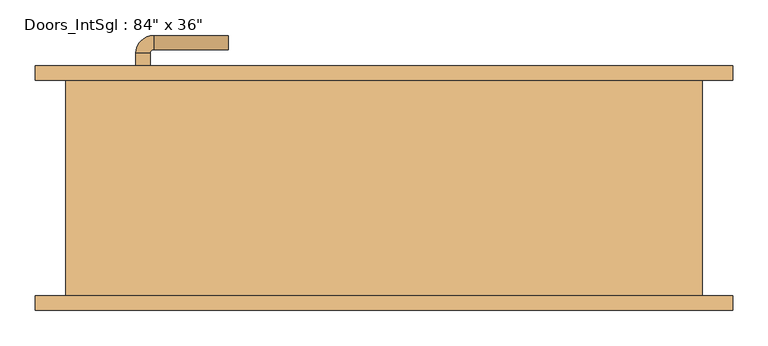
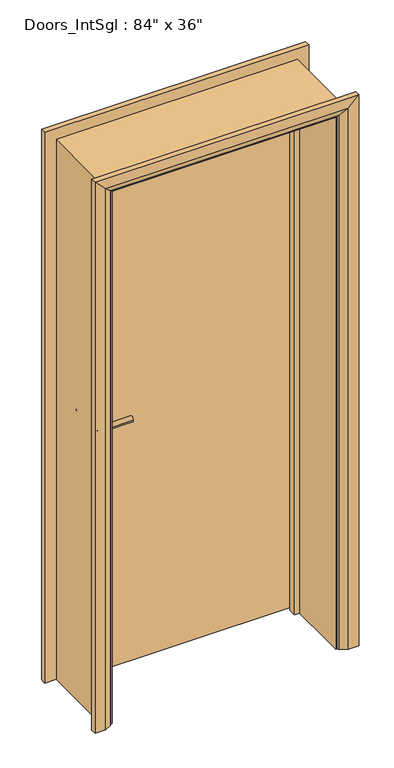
"""IFC4 building model written with IfcOpenShell, lengths in millimetres: door geometry."""

from ifc_helpers import new_model, si_unit, point, frame, frame_2d, origin, place, context, project, spatial, polyline, circle_curve, ellipse_curve, trimmed, segment, composite_curve, outline, extrude, faceted_brep, source, transform, mapped, element, save
from ifc_brep_helpers import plane_surface, cylinder_surface, revolved_surface, advanced_brep


def door_96ed2d87(model_context):
    return source(origin(), model_context, "Body", "SolidModel", [
        advanced_brep(
        [(-350.2, 106.4, 1000.0), (-330.2, 106.4, 1000.0), (-330.2, 76.4, 1000.0), (-350.2, 76.4, 1000.0), (-325.2, 71.4, 1000.0), (-325.2, 51.4, 1000.0), (-220.2, 51.4, 1000.0), (-220.2, 71.4, 1000.0)],
        [
            (0, 1, circle_curve(frame((-340.2, 106.4, 1000.0), z_axis=(0.0, 1.0, 0.0), x_axis=(1.0, 0.0, 0.0)), 10.0)),
            (1, 0, circle_curve(frame((-340.2, 106.4, 1000.0), z_axis=(0.0, 1.0, 0.0), x_axis=(1.0, 0.0, 0.0)), 10.0)),
            (1, 2),
            (2, 3, circle_curve(frame((-340.2, 76.4, 1000.0), z_axis=(0.0, 1.0, 0.0), x_axis=(1.0, 0.0, 0.0)), 10.0)),
            (3, 0),
            (3, 2, circle_curve(frame((-340.2, 76.4, 1000.0), z_axis=(0.0, 1.0, 0.0), x_axis=(1.0, 0.0, 0.0)), 10.0)),
            (4, 5, circle_curve(frame((-325.2, 61.4, 1000.0), z_axis=(-1.0, 0.0, 0.0), x_axis=(0.0, 1.0, 0.0)), 10.0)),
            (5, 3, circle_curve(frame((-325.2, 76.4, 1000.0), z_axis=(0.0, 0.0, -1.0), x_axis=(-1.0, 0.0, 0.0)), 25.0)),
            (2, 4, circle_curve(frame((-325.2, 76.4, 1000.0), z_axis=(0.0, 0.0, 1.0), x_axis=(-1.0, 0.0, 0.0)), 5.0)),
            (5, 4, circle_curve(frame((-325.2, 61.4, 1000.0), z_axis=(-1.0, 0.0, 0.0), x_axis=(0.0, 1.0, 0.0)), 10.0)),
            (6, 7, circle_curve(frame((-220.2, 61.4, 1000.0), z_axis=(1.0, 0.0, 0.0), x_axis=(0.0, 1.0, 0.0)), 10.0)),
            (7, 6, circle_curve(frame((-220.2, 61.4, 1000.0), z_axis=(1.0, 0.0, 0.0), x_axis=(0.0, 1.0, 0.0)), 10.0)),
            (4, 7),
            (6, 5),
        ],
        [
            plane_surface(frame((-340.2, 106.4, 1000.0), z_axis=(0.0, 1.0, 0.0), x_axis=(0.0, 0.0, 1.0))),
            cylinder_surface(frame((-340.2, 106.4, 1000.0), z_axis=(0.0, 1.0, 0.0), x_axis=(1.0, 0.0, 0.0)), 10.0),
            revolved_surface(trimmed(ellipse_curve(frame((-340.2, 76.4, 1000.0), z_axis=(0.0, -1.0, 0.0), x_axis=(1.0, 0.0, 0.0)), 10.0, 10.0), [point((-350.2, 76.4, 1000.0))], [point((-330.2, 76.4, 1000.0))], True, "CARTESIAN"), (-325.2, 76.4, 1000.0), (0.0, 0.0, -1.0)),
            revolved_surface(trimmed(ellipse_curve(frame((-340.2, 76.4, 1000.0), z_axis=(0.0, -1.0, 0.0), x_axis=(1.0, 0.0, 0.0)), 10.0, 10.0), [point((-330.2, 76.4, 1000.0))], [point((-350.2, 76.4, 1000.0))], True, "CARTESIAN"), (-325.2, 76.4, 1000.0), (0.0, 0.0, -1.0)),
            plane_surface(frame((-220.2, 61.4, 1000.0), z_axis=(1.0, 0.0, 0.0), x_axis=(0.0, 0.0, 1.0))),
            cylinder_surface(frame((-325.2, 61.4, 1000.0), z_axis=(-1.0, 0.0, 0.0), x_axis=(0.0, 1.0, 0.0)), 10.0),
        ],
        [
            (0, [[1, 2]]),
            (1, [[3, 4, 5, -2]]),
            (1, [[-5, 6, -3, -1]]),
            (2, [[7, 8, -4, 9]]),
            (3, [[10, -9, -6, -8]]),
            (4, [[11, 12]]),
            (5, [[13, -11, 14, -7]]),
            (5, [[-14, -12, -13, -10]]),
        ],
    ),
        extrude(outline(composite_curve([segment(trimmed(circle_curve(frame_2d((1000.0, -342.7)), 30.0), [point((1000.0, -372.7))], [point((1000.0, -312.7))], False, "CARTESIAN"), True, "CONTINUOUS"), segment(trimmed(circle_curve(frame_2d((1000.0, -342.7)), 30.0), [point((1000.0, -312.7))], [point((1000.0, -372.7))], False, "CARTESIAN"), True, "CONTINUOUS")], self_intersect=False)), frame((0.0, 106.4, 0.0), z_axis=(0.0, 1.0, 0.0), x_axis=(0.0, 0.0, 1.0)), (0.0, 0.0, 1.0), 8.0),
        advanced_brep(
        [(-350.2, 160.4, 1000.0), (-330.2, 160.4, 1000.0), (-350.2, 190.4, 1000.0), (-330.2, 190.4, 1000.0), (-325.2, 195.4, 1000.0), (-325.2, 215.4, 1000.0), (-220.2, 215.4, 1000.0), (-220.2, 195.4, 1000.0)],
        [
            (0, 1, circle_curve(frame((-340.2, 160.4, 1000.0), z_axis=(0.0, -1.0, 0.0), x_axis=(1.0, 0.0, 0.0)), 10.0)),
            (1, 0, circle_curve(frame((-340.2, 160.4, 1000.0), z_axis=(0.0, -1.0, 0.0), x_axis=(1.0, 0.0, 0.0)), 10.0)),
            (0, 2),
            (2, 3, circle_curve(frame((-340.2, 190.4, 1000.0), z_axis=(0.0, -1.0, 0.0), x_axis=(1.0, 0.0, 0.0)), 10.0)),
            (3, 1),
            (3, 2, circle_curve(frame((-340.2, 190.4, 1000.0), z_axis=(0.0, -1.0, 0.0), x_axis=(1.0, 0.0, 0.0)), 10.0)),
            (4, 3, circle_curve(frame((-325.2, 190.4, 1000.0), z_axis=(0.0, 0.0, 1.0), x_axis=(-1.0, 0.0, 0.0)), 5.0)),
            (2, 5, circle_curve(frame((-325.2, 190.4, 1000.0), z_axis=(0.0, 0.0, -1.0), x_axis=(-1.0, 0.0, 0.0)), 25.0)),
            (5, 4, circle_curve(frame((-325.2, 205.4, 1000.0), z_axis=(-1.0, 0.0, 0.0), x_axis=(0.0, -1.0, 0.0)), 10.0)),
            (4, 5, circle_curve(frame((-325.2, 205.4, 1000.0), z_axis=(-1.0, 0.0, 0.0), x_axis=(0.0, -1.0, 0.0)), 10.0)),
            (6, 7, circle_curve(frame((-220.2, 205.4, 1000.0), z_axis=(1.0, 0.0, 0.0), x_axis=(0.0, -1.0, 0.0)), 10.0)),
            (7, 6, circle_curve(frame((-220.2, 205.4, 1000.0), z_axis=(1.0, 0.0, 0.0), x_axis=(0.0, -1.0, 0.0)), 10.0)),
            (5, 6),
            (7, 4),
        ],
        [
            plane_surface(frame((-340.2, 160.4, 1000.0), z_axis=(0.0, -1.0, 0.0), x_axis=(0.0, 0.0, 1.0))),
            cylinder_surface(frame((-340.2, 160.4, 1000.0), z_axis=(0.0, -1.0, 0.0), x_axis=(1.0, 0.0, 0.0)), 10.0),
            revolved_surface(trimmed(ellipse_curve(frame((-340.2, 190.4, 1000.0), z_axis=(0.0, -1.0, 0.0), x_axis=(1.0, 0.0, 0.0)), 10.0, 10.0), [point((-350.2, 190.4, 1000.0))], [point((-330.2, 190.4, 1000.0))], True, "CARTESIAN"), (-325.2, 190.4, 1000.0), (0.0, 0.0, -1.0)),
            revolved_surface(trimmed(ellipse_curve(frame((-340.2, 190.4, 1000.0), z_axis=(0.0, -1.0, 0.0), x_axis=(1.0, 0.0, 0.0)), 10.0, 10.0), [point((-330.2, 190.4, 1000.0))], [point((-350.2, 190.4, 1000.0))], True, "CARTESIAN"), (-325.2, 190.4, 1000.0), (0.0, 0.0, -1.0)),
            plane_surface(frame((-220.2, 205.4, 1000.0), z_axis=(1.0, 0.0, 0.0), x_axis=(0.0, 0.0, 1.0))),
            cylinder_surface(frame((-325.2, 205.4, 1000.0), z_axis=(-1.0, 0.0, 0.0), x_axis=(0.0, -1.0, 0.0)), 10.0),
        ],
        [
            (0, [[1, 2]]),
            (1, [[-1, 3, 4, 5]]),
            (1, [[-2, -5, 6, -3]]),
            (2, [[7, -4, 8, 9]]),
            (3, [[-8, -6, -7, 10]]),
            (4, [[11, 12]]),
            (5, [[-9, 13, -12, 14]]),
            (5, [[-10, -14, -11, -13]]),
        ],
    ),
        extrude(outline(composite_curve([segment(trimmed(circle_curve(frame_2d((1000.0, -342.7)), 30.0), [point((1000.0, -372.7))], [point((1000.0, -312.7))], False, "CARTESIAN"), True, "CONTINUOUS"), segment(trimmed(circle_curve(frame_2d((1000.0, -342.7)), 30.0), [point((1000.0, -312.7))], [point((1000.0, -372.7))], False, "CARTESIAN"), True, "CONTINUOUS")], self_intersect=False)), frame((0.0, 152.4, 0.0), z_axis=(0.0, 1.0, 0.0), x_axis=(0.0, 0.0, 1.0)), (0.0, 0.0, 1.0), 8.0),
        extrude(outline(polyline([(415.2, 114.4), (-415.2, 114.4), (-415.2, 152.4), (415.2, 152.4), (415.2, 114.4)])), frame((0.0, 0.0, 8.0), z_axis=(0.0, 0.0, 1.0), x_axis=(1.0, 0.0, 0.0)), (0.0, 0.0, 1.0), 2083.6),
        advanced_brep(
        [(492.2, 172.4, 0.0), (492.2, 152.4, 0.0), (422.2, 152.4, 0.0), (426.2, 158.4, 0.0), (452.2, 172.4, 0.0), (492.2, 172.4, 2168.6), (492.2, 152.4, 2168.6), (-492.2, 152.4, 2168.6), (-492.2, 152.4, 0.0), (-422.2, 152.4, 0.0), (-422.2, 152.4, 2098.6), (422.2, 152.4, 2098.6), (426.2, 158.4, 2102.6), (452.2, 172.4, 2128.6), (-452.2, 172.4, 2128.6), (-452.2, 172.4, 0.0), (-492.2, 172.4, 0.0), (-492.2, 172.4, 2168.6), (-426.2, 158.4, 0.0), (-426.2, 158.4, 2102.6)],
        [
            (0, 1),
            (1, 2),
            (2, 3, circle_curve(frame((430.2, 151.4, 0.0), z_axis=(0.0, 0.0, -1.0), x_axis=(1.0, 0.0, 0.0)), 8.0622577)),
            (3, 4),
            (4, 0),
            (0, 5),
            (5, 6),
            (6, 1),
            (6, 7),
            (7, 8),
            (8, 9),
            (9, 10),
            (10, 11),
            (11, 2),
            (11, 12, ellipse_curve(frame((430.2, 151.4, 2106.6), z_axis=(0.7071067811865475, 0.0, -0.7071067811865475), x_axis=(-0.7071067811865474, 0.0, -0.7071067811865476)), 11.4017543, 8.0622577)),
            (12, 3),
            (12, 13),
            (13, 4),
            (13, 14),
            (14, 15),
            (15, 16),
            (16, 17),
            (17, 5),
            (7, 17),
            (16, 8),
            (15, 18),
            (18, 9, circle_curve(frame((-430.2, 151.4, 0.0), z_axis=(0.0, 0.0, -1.0), x_axis=(-1.0, 0.0, 0.0)), 8.0622577)),
            (19, 10, ellipse_curve(frame((-430.2, 151.4, 2106.6), z_axis=(-0.7071067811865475, 0.0, -0.7071067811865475), x_axis=(-0.7071067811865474, 0.0, 0.7071067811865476)), 11.4017543, 8.0622577)),
            (18, 19),
            (14, 19),
            (19, 12),
        ],
        [
            plane_surface(frame((422.2, 152.4, 0.0), z_axis=(0.0, 0.0, -1.0), x_axis=(0.0, -1.0, 0.0))),
            plane_surface(frame((492.2, 172.4, 0.0), z_axis=(1.0, 0.0, 0.0), x_axis=(0.0, 0.0, 1.0))),
            plane_surface(frame((492.2, 152.4, 0.0), z_axis=(0.0, -1.0, 0.0), x_axis=(0.0, 0.0, 1.0))),
            cylinder_surface(frame((430.2, 151.4, 0.0), z_axis=(0.0, 0.0, -1.0), x_axis=(1.0, 0.0, 0.0)), 8.0622577),
            plane_surface(frame((426.2, 158.4, 0.0), z_axis=(-0.4740998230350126, 0.880471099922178, 0.0), x_axis=(0.0, 0.0, 1.0))),
            plane_surface(frame((452.2, 172.4, 0.0), z_axis=(0.0, 1.0, 0.0), x_axis=(0.0, 0.0, 1.0))),
            plane_surface(frame((-492.2, 172.4, 2168.6), z_axis=(-1.0, 0.0, 0.0), x_axis=(0.0, 0.0, -1.0))),
            plane_surface(frame((-422.2, 152.4, 0.0), z_axis=(0.0, 0.0, -1.0), x_axis=(0.0, -1.0, 0.0))),
            cylinder_surface(frame((-430.2, 151.4, 2098.6), z_axis=(0.0, 0.0, 1.0), x_axis=(-1.0, 0.0, 0.0)), 8.0622577),
            plane_surface(frame((-426.2, 158.4, 2102.6), z_axis=(0.47409982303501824, 0.8804710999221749, 0.0), x_axis=(0.0, 0.0, -1.0))),
            plane_surface(frame((492.2, 172.4, 2168.6), z_axis=(0.0, 0.0, 1.0), x_axis=(-1.0, 0.0, 0.0))),
            cylinder_surface(frame((422.2, 151.4, 2106.6), z_axis=(1.0, 0.0, 0.0), x_axis=(0.0, 0.0, 1.0)), 8.0622577),
            plane_surface(frame((426.2, 158.4, 2102.6), z_axis=(0.0, 0.8804710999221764, -0.4740998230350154), x_axis=(-1.0, 0.0, 0.0))),
        ],
        [
            (0, [[1, 2, 3, 4, 5]]),
            (1, [[-1, 6, 7, 8]]),
            (2, [[-2, -8, 9, 10, 11, 12, 13, 14]]),
            (3, [[-3, -14, 15, 16]]),
            (4, [[-4, -16, 17, 18]]),
            (5, [[-5, -18, 19, 20, 21, 22, 23, -6]]),
            (6, [[24, -22, 25, -10]]),
            (7, [[-21, 26, 27, -11, -25]]),
            (8, [[28, -12, -27, 29]]),
            (9, [[30, -29, -26, -20]]),
            (10, [[-7, -23, -24, -9]]),
            (11, [[-15, -13, -28, 31]]),
            (12, [[-17, -31, -30, -19]]),
        ],
    ),
        extrude(outline(polyline([(0.0, -417.2), (0.0, -398.2), (2074.6, -398.2), (2074.6, 398.2), (0.0, 398.2), (0.0, 417.2), (2093.6, 417.2), (2093.6, -417.2), (0.0, -417.2)])), frame((0.0, 80.4, 0.0), z_axis=(0.0, 1.0, 0.0), x_axis=(0.0, 0.0, 1.0)), (0.0, 0.0, 1.0), 32.0),
        advanced_brep(
        [(-492.2, -172.4, 0.0), (-492.2, -152.4, 0.0), (-422.2, -152.4, 0.0), (-426.2, -158.4, 0.0), (-452.2, -172.4, 0.0), (-492.2, -172.4, 2168.6), (-492.2, -152.4, 2168.6), (-422.2, -152.4, 2098.6), (-426.2, -158.4, 2102.6), (-452.2, -172.4, 2128.6), (492.2, -172.4, 0.0), (452.2, -172.4, 0.0), (426.2, -158.4, 0.0), (422.2, -152.4, 0.0), (492.2, -152.4, 0.0), (492.2, -172.4, 2168.6), (452.2, -172.4, 2128.6), (426.2, -158.4, 2102.6), (422.2, -152.4, 2098.6), (492.2, -152.4, 2168.6)],
        [
            (0, 1),
            (1, 2),
            (2, 3, circle_curve(frame((-430.2, -151.4, 0.0), z_axis=(0.0, 0.0, -1.0), x_axis=(-1.0, 0.0, 0.0)), 8.0622577)),
            (3, 4),
            (4, 0),
            (0, 5),
            (5, 6),
            (6, 1),
            (6, 7),
            (7, 2),
            (7, 8, ellipse_curve(frame((-430.2, -151.4, 2106.6), z_axis=(-0.7071067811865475, 0.0, -0.7071067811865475), x_axis=(0.7071067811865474, 0.0, -0.7071067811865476)), 11.4017543, 8.0622577)),
            (8, 3),
            (8, 9),
            (9, 4),
            (9, 5),
            (10, 11),
            (11, 12),
            (12, 13, circle_curve(frame((430.2, -151.4, 0.0), z_axis=(0.0, 0.0, -1.0), x_axis=(1.0, 0.0, 0.0)), 8.0622577)),
            (13, 14),
            (14, 10),
            (15, 16),
            (16, 11),
            (10, 15),
            (16, 17),
            (17, 12),
            (17, 18, ellipse_curve(frame((430.2, -151.4, 2106.6), z_axis=(0.7071067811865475, 0.0, -0.7071067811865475), x_axis=(0.7071067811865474, 0.0, 0.7071067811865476)), 11.4017543, 8.0622577)),
            (18, 13),
            (18, 19),
            (19, 14),
            (19, 15),
            (5, 15),
            (19, 6),
            (18, 7),
            (17, 8),
            (16, 9),
        ],
        [
            plane_surface(frame((-422.2, -225.2010989, 0.0), z_axis=(0.0, 0.0, -1.0), x_axis=(1.0, 0.0, 0.0))),
            plane_surface(frame((-492.2, -172.4, 0.0), z_axis=(-1.0, 0.0, 0.0), x_axis=(0.0, 0.0, 1.0))),
            plane_surface(frame((-492.2, -152.4, 0.0), z_axis=(0.0, 1.0, 0.0), x_axis=(0.0, 0.0, 1.0))),
            cylinder_surface(frame((-430.2, -151.4, 0.0), z_axis=(0.0, 0.0, -1.0), x_axis=(-1.0, 0.0, 0.0)), 8.0622577),
            plane_surface(frame((-426.2, -158.4, 0.0), z_axis=(0.4740998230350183, -0.8804710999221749, 0.0), x_axis=(0.0, 0.0, 1.0))),
            plane_surface(frame((-452.2, -172.4, 0.0), z_axis=(0.0, -1.0, 0.0), x_axis=(0.0, 0.0, 1.0))),
            plane_surface(frame((422.2, -225.2010989, 0.0), z_axis=(0.0, 0.0, -1.0), x_axis=(-1.0, 0.0, 0.0))),
            plane_surface(frame((452.2, -172.4, 2128.6), z_axis=(0.0, -1.0, 0.0), x_axis=(0.0, 0.0, -1.0))),
            plane_surface(frame((426.2, -158.4, 2102.6), z_axis=(-0.4740998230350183, -0.8804710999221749, 0.0), x_axis=(0.0, 0.0, -1.0))),
            cylinder_surface(frame((430.2, -151.4, 2098.6), z_axis=(0.0, 0.0, 1.0), x_axis=(1.0, 0.0, 0.0)), 8.0622577),
            plane_surface(frame((492.2, -152.4, 2168.6), z_axis=(0.0, 1.0, 0.0), x_axis=(0.0, 0.0, -1.0))),
            plane_surface(frame((492.2, -172.4, 2168.6), z_axis=(1.0, 0.0, 0.0), x_axis=(0.0, 0.0, -1.0))),
            plane_surface(frame((-492.2, -172.4, 2168.6), z_axis=(0.0, 0.0, 1.0), x_axis=(1.0, 0.0, 0.0))),
            plane_surface(frame((-492.2, -152.4, 2168.6), z_axis=(0.0, 1.0, 0.0), x_axis=(1.0, 0.0, 0.0))),
            cylinder_surface(frame((-422.2, -151.4, 2106.6), z_axis=(-1.0, 0.0, 0.0), x_axis=(0.0, 0.0, 1.0)), 8.0622577),
            plane_surface(frame((-426.2, -158.4, 2102.6), z_axis=(0.0, -0.8804710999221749, -0.4740998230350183), x_axis=(1.0, 0.0, 0.0))),
            plane_surface(frame((-452.2, -172.4, 2128.6), z_axis=(0.0, -1.0, 0.0), x_axis=(1.0, 0.0, 0.0))),
        ],
        [
            (0, [[1, 2, 3, 4, 5]]),
            (1, [[-1, 6, 7, 8]]),
            (2, [[-2, -8, 9, 10]]),
            (3, [[-3, -10, 11, 12]]),
            (4, [[-4, -12, 13, 14]]),
            (5, [[-5, -14, 15, -6]]),
            (6, [[16, 17, 18, 19, 20]]),
            (7, [[21, 22, -16, 23]]),
            (8, [[24, 25, -17, -22]]),
            (9, [[26, 27, -18, -25]]),
            (10, [[28, 29, -19, -27]]),
            (11, [[30, -23, -20, -29]]),
            (12, [[-7, 31, -30, 32]]),
            (13, [[-9, -32, -28, 33]]),
            (14, [[-11, -33, -26, 34]]),
            (15, [[-13, -34, -24, 35]]),
            (16, [[-15, -35, -21, -31]]),
        ],
    ),
        faceted_brep([(-417.2, 152.4, 0.0), (-417.2, -152.4, 0.0), (-449.2, -152.4, 0.0), (-449.2, 152.4, 0.0), (-417.2, 152.4, 2093.6), (-417.2, -152.4, 2093.6), (-449.2, -152.4, 2125.6), (-449.2, 152.4, 2125.6), (417.2, 152.4, 0.0), (449.2, 152.4, 0.0), (449.2, -152.4, 0.0), (417.2, -152.4, 0.0), (417.2, 152.4, 2093.6), (449.2, 152.4, 2125.6), (449.2, -152.4, 2125.6), (417.2, -152.4, 2093.6)], [[[0, 1, 2, 3]], [[1, 0, 4, 5]], [[2, 1, 5, 6]], [[3, 2, 6, 7]], [[0, 3, 7, 4]], [[8, 9, 10, 11]], [[12, 13, 9, 8]], [[13, 14, 10, 9]], [[14, 15, 11, 10]], [[15, 12, 8, 11]], [[5, 4, 12, 15]], [[6, 5, 15, 14]], [[7, 6, 14, 13]], [[4, 7, 13, 12]]]),
    ])


if __name__ == "__main__":
    model = new_model("IFC4")
    model_context = context("Model", 3, world=origin())
    ifc_project = project(units=[si_unit("LENGTHUNIT", "METRE", prefix="MILLI")], contexts=[model_context])
    site = spatial("IfcSite", under=ifc_project)
    building = spatial("IfcBuilding", under=site)
    placement = place(None, origin())
    door_shape = door_96ed2d87(model_context)
    element("IfcDoor", 1, ObjectType="Doors_IntSgl : 84\" x 36\"", at=placement, inside=building, context=model_context, shape_type="MappedRepresentation", body=[
        mapped(door_shape, transform((0.0, 0.0, 0.0), x_axis=(1.0, 0.0, 0.0), y_axis=(0.0, 1.0, 0.0), z_axis=(0.0, 0.0, 1.0))),
    ])
    save(model, "model.ifc")
